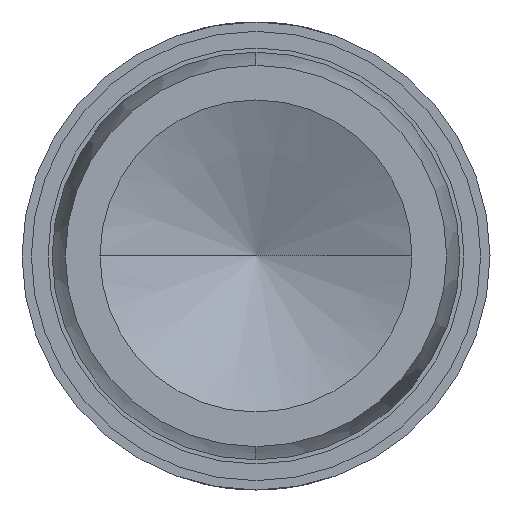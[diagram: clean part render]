
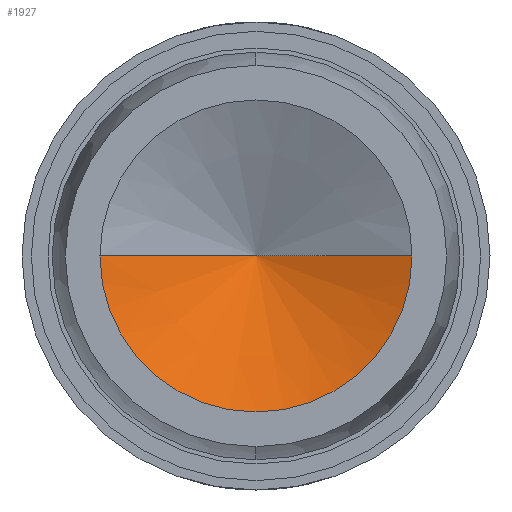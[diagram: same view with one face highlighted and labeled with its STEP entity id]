
A CAD part, left-side view. The second image highlights one B-rep face of the part: STEP entity #1927.
In plain terms, the highlighted conical face has half-angle 67.5 degrees and reference radius 2414.21 mm.
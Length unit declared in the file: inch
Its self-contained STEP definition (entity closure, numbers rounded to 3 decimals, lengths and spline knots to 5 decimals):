
#148 = DIRECTION ( 'NONE',  ( 0., 1., 0. ) ) ;
#182 = ORIENTED_EDGE ( 'NONE', *, *, #1351, .T. ) ;
#187 = AXIS2_PLACEMENT_3D ( 'NONE', #1260, #1861, #148 ) ;
#616 = AXIS2_PLACEMENT_3D ( 'NONE', #1445, #2330, #2070 ) ;
#845 = CONICAL_SURFACE ( 'NONE', #616, 95.04778, 1.178 ) ;
#901 = EDGE_LOOP ( 'NONE', ( #2152, #182, #1072 ) ) ;
#956 = DIRECTION ( 'NONE',  ( -0.383, -0.924, 0. ) ) ;
#1072 = ORIENTED_EDGE ( 'NONE', *, *, #2148, .F. ) ;
#1176 = VERTEX_POINT ( 'NONE', #1209 ) ;
#1183 = CARTESIAN_POINT ( 'NONE',  ( -0.03217, 0., 0. ) ) ;
#1209 = CARTESIAN_POINT ( 'NONE',  ( -0.1875, -0.375, 0. ) ) ;
#1260 = CARTESIAN_POINT ( 'NONE',  ( -0.1875, 0., 0. ) ) ;
#1351 = EDGE_CURVE ( 'NONE', #2509, #2198, #2308, .T. ) ;
#1445 = CARTESIAN_POINT ( 'NONE',  ( -39.40225, 0., 0. ) ) ;
#1781 = VECTOR ( 'NONE', #956, 39.37008 ) ;
#1861 = DIRECTION ( 'NONE',  ( 1., 0., 0. ) ) ;
#1927 = ADVANCED_FACE ( 'NONE', ( #2486 ), #845, .F. ) ;
#2049 = CARTESIAN_POINT ( 'NONE',  ( -0.1875, 0.375, 0. ) ) ;
#2070 = DIRECTION ( 'NONE',  ( 0., -1., 0. ) ) ;
#2148 = EDGE_CURVE ( 'NONE', #1176, #2198, #2159, .T. ) ;
#2152 = ORIENTED_EDGE ( 'NONE', *, *, #2472, .F. ) ;
#2156 = VECTOR ( 'NONE', #2688, 39.37008 ) ;
#2159 = CIRCLE ( 'NONE', #187, 0.375 ) ;
#2198 = VERTEX_POINT ( 'NONE', #2049 ) ;
#2252 = CARTESIAN_POINT ( 'NONE',  ( -0.03217, 0., 0. ) ) ;
#2308 = LINE ( 'NONE', #2665, #2156 ) ;
#2314 = LINE ( 'NONE', #1183, #1781 ) ;
#2330 = DIRECTION ( 'NONE',  ( -1., 0., 0. ) ) ;
#2472 = EDGE_CURVE ( 'NONE', #2509, #1176, #2314, .T. ) ;
#2486 = FACE_OUTER_BOUND ( 'NONE', #901, .T. ) ;
#2509 = VERTEX_POINT ( 'NONE', #2252 ) ;
#2665 = CARTESIAN_POINT ( 'NONE',  ( -0.03217, 0., 0. ) ) ;
#2688 = DIRECTION ( 'NONE',  ( -0.383, 0.924, 0. ) ) ;
